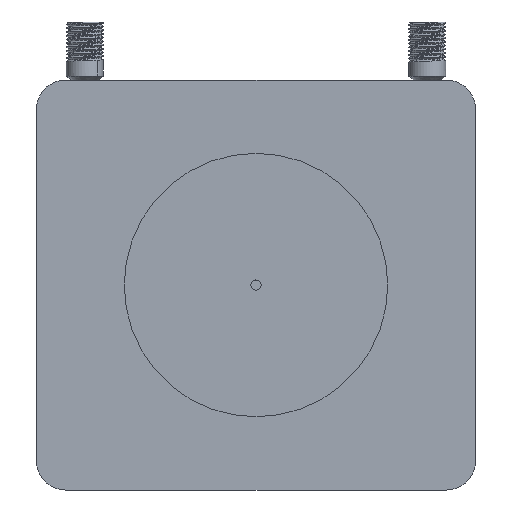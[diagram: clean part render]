
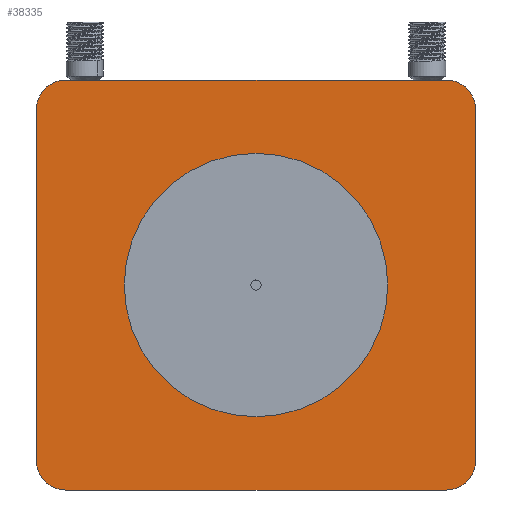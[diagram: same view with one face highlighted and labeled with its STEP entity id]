
A CAD part, front view. The second image highlights one B-rep face of the part: STEP entity #38335.
In plain terms, the highlighted planar face has unit normal (0, -1, 0) as drawn and (0, 1, 0) by its records, which use the part's own axes.
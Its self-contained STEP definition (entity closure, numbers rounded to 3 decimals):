
#70 = VERTEX_POINT ( 'NONE', #27825 ) ;
#290 = LINE ( 'NONE', #13644, #6511 ) ;
#1933 = LINE ( 'NONE', #12887, #5806 ) ;
#3934 = CARTESIAN_POINT ( 'NONE',  ( -50., 8., -50. ) ) ;
#4258 = AXIS2_PLACEMENT_3D ( 'NONE', #17964, #21463, #41174 ) ;
#4353 = CIRCLE ( 'NONE', #26795, 45. ) ;
#5806 = VECTOR ( 'NONE', #21860, 1000. ) ;
#6150 = CARTESIAN_POINT ( 'NONE',  ( 65., 8., 60. ) ) ;
#6505 = DIRECTION ( 'NONE',  ( 0., 0., -1. ) ) ;
#6511 = VECTOR ( 'NONE', #10596, 1000. ) ;
#6577 = VERTEX_POINT ( 'NONE', #25022 ) ;
#6937 = VERTEX_POINT ( 'NONE', #26738 ) ;
#7014 = DIRECTION ( 'NONE',  ( 0., 0., 1. ) ) ;
#7066 = CIRCLE ( 'NONE', #4258, 10. ) ;
#7387 = CARTESIAN_POINT ( 'NONE',  ( -65., 8., 70. ) ) ;
#8170 = DIRECTION ( 'NONE',  ( 0., 0., 1. ) ) ;
#8247 = VERTEX_POINT ( 'NONE', #31634 ) ;
#8422 = CARTESIAN_POINT ( 'NONE',  ( -65., 8., -70. ) ) ;
#9150 = LINE ( 'NONE', #25990, #33080 ) ;
#10262 = CARTESIAN_POINT ( 'NONE',  ( -65., 8., 60. ) ) ;
#10313 = EDGE_CURVE ( 'NONE', #6577, #8247, #12615, .T. ) ;
#10596 = DIRECTION ( 'NONE',  ( -1., 0., 0. ) ) ;
#11666 = CARTESIAN_POINT ( 'NONE',  ( 0., 8., 0. ) ) ;
#11978 = EDGE_LOOP ( 'NONE', ( #28856, #16588 ) ) ;
#12217 = AXIS2_PLACEMENT_3D ( 'NONE', #11666, #24798, #8170 ) ;
#12543 = CIRCLE ( 'NONE', #14607, 10. ) ;
#12615 = LINE ( 'NONE', #25953, #26990 ) ;
#12887 = CARTESIAN_POINT ( 'NONE',  ( 65., 8., 70. ) ) ;
#13644 = CARTESIAN_POINT ( 'NONE',  ( 65., 8., -70. ) ) ;
#14607 = AXIS2_PLACEMENT_3D ( 'NONE', #10262, #20548, #40022 ) ;
#14925 = VERTEX_POINT ( 'NONE', #33457 ) ;
#15149 = DIRECTION ( 'NONE',  ( 0., 0., -1. ) ) ;
#15234 = VERTEX_POINT ( 'NONE', #7387 ) ;
#15681 = DIRECTION ( 'NONE',  ( 0., 0., 1. ) ) ;
#16150 = AXIS2_PLACEMENT_3D ( 'NONE', #3934, #40478, #33675 ) ;
#16500 = EDGE_CURVE ( 'NONE', #70, #18734, #4353, .T. ) ;
#16588 = ORIENTED_EDGE ( 'NONE', *, *, #34483, .F. ) ;
#16750 = AXIS2_PLACEMENT_3D ( 'NONE', #35489, #18858, #15149 ) ;
#17324 = ORIENTED_EDGE ( 'NONE', *, *, #38011, .T. ) ;
#17964 = CARTESIAN_POINT ( 'NONE',  ( -65., 8., -60. ) ) ;
#18734 = VERTEX_POINT ( 'NONE', #33679 ) ;
#18858 = DIRECTION ( 'NONE',  ( 0., 1., 0. ) ) ;
#20548 = DIRECTION ( 'NONE',  ( 0., 1., 0. ) ) ;
#21225 = EDGE_LOOP ( 'NONE', ( #17324, #33517, #33241, #38450, #33004, #26197, #28583, #33449 ) ) ;
#21463 = DIRECTION ( 'NONE',  ( 0., 1., 0. ) ) ;
#21611 = CARTESIAN_POINT ( 'NONE',  ( 65., 8., -70. ) ) ;
#21775 = EDGE_CURVE ( 'NONE', #14925, #6937, #29929, .T. ) ;
#21860 = DIRECTION ( 'NONE',  ( 1., 0., 0. ) ) ;
#22021 = VERTEX_POINT ( 'NONE', #8422 ) ;
#23574 = EDGE_CURVE ( 'NONE', #40898, #43041, #42607, .T. ) ;
#23631 = DIRECTION ( 'NONE',  ( 0., 1., 0. ) ) ;
#24798 = DIRECTION ( 'NONE',  ( 0., 1., 0. ) ) ;
#25022 = CARTESIAN_POINT ( 'NONE',  ( -75., 8., -60. ) ) ;
#25480 = CIRCLE ( 'NONE', #12217, 45. ) ;
#25953 = CARTESIAN_POINT ( 'NONE',  ( -75., 8., -60. ) ) ;
#25990 = CARTESIAN_POINT ( 'NONE',  ( 75., 8., -60. ) ) ;
#26027 = EDGE_CURVE ( 'NONE', #43041, #22021, #290, .T. ) ;
#26197 = ORIENTED_EDGE ( 'NONE', *, *, #32798, .T. ) ;
#26270 = DIRECTION ( 'NONE',  ( 0., 1., 0. ) ) ;
#26680 = FACE_OUTER_BOUND ( 'NONE', #21225, .T. ) ;
#26738 = CARTESIAN_POINT ( 'NONE',  ( 75., 8., 60. ) ) ;
#26795 = AXIS2_PLACEMENT_3D ( 'NONE', #43126, #23631, #7014 ) ;
#26898 = FACE_BOUND ( 'NONE', #11978, .T. ) ;
#26990 = VECTOR ( 'NONE', #15681, 1000. ) ;
#27825 = CARTESIAN_POINT ( 'NONE',  ( 0., 8., -45. ) ) ;
#28583 = ORIENTED_EDGE ( 'NONE', *, *, #23574, .T. ) ;
#28856 = ORIENTED_EDGE ( 'NONE', *, *, #16500, .F. ) ;
#29929 = CIRCLE ( 'NONE', #38341, 10. ) ;
#31634 = CARTESIAN_POINT ( 'NONE',  ( -75., 8., 60. ) ) ;
#32798 = EDGE_CURVE ( 'NONE', #6937, #40898, #9150, .T. ) ;
#33004 = ORIENTED_EDGE ( 'NONE', *, *, #21775, .T. ) ;
#33049 = DIRECTION ( 'NONE',  ( 0., 0., -1. ) ) ;
#33080 = VECTOR ( 'NONE', #6505, 1000. ) ;
#33241 = ORIENTED_EDGE ( 'NONE', *, *, #35236, .T. ) ;
#33449 = ORIENTED_EDGE ( 'NONE', *, *, #26027, .T. ) ;
#33457 = CARTESIAN_POINT ( 'NONE',  ( 65., 8., 70. ) ) ;
#33517 = ORIENTED_EDGE ( 'NONE', *, *, #10313, .T. ) ;
#33675 = DIRECTION ( 'NONE',  ( 0., 0., 1. ) ) ;
#33679 = CARTESIAN_POINT ( 'NONE',  ( 0., 8., 45. ) ) ;
#33896 = PLANE ( 'NONE',  #16150 ) ;
#34483 = EDGE_CURVE ( 'NONE', #18734, #70, #25480, .T. ) ;
#35236 = EDGE_CURVE ( 'NONE', #8247, #15234, #12543, .T. ) ;
#35489 = CARTESIAN_POINT ( 'NONE',  ( 65., 8., -60. ) ) ;
#38011 = EDGE_CURVE ( 'NONE', #22021, #6577, #7066, .T. ) ;
#38335 = ADVANCED_FACE ( 'NONE', ( #26898, #26680 ), #33896, .T. ) ;
#38341 = AXIS2_PLACEMENT_3D ( 'NONE', #6150, #26270, #33049 ) ;
#38450 = ORIENTED_EDGE ( 'NONE', *, *, #39913, .T. ) ;
#39913 = EDGE_CURVE ( 'NONE', #15234, #14925, #1933, .T. ) ;
#40022 = DIRECTION ( 'NONE',  ( 0., 0., -1. ) ) ;
#40478 = DIRECTION ( 'NONE',  ( 0., 1., 0. ) ) ;
#40898 = VERTEX_POINT ( 'NONE', #42395 ) ;
#41174 = DIRECTION ( 'NONE',  ( 0., 0., 1. ) ) ;
#42395 = CARTESIAN_POINT ( 'NONE',  ( 75., 8., -60. ) ) ;
#42607 = CIRCLE ( 'NONE', #16750, 10. ) ;
#43041 = VERTEX_POINT ( 'NONE', #21611 ) ;
#43126 = CARTESIAN_POINT ( 'NONE',  ( 0., 8., 0. ) ) ;
